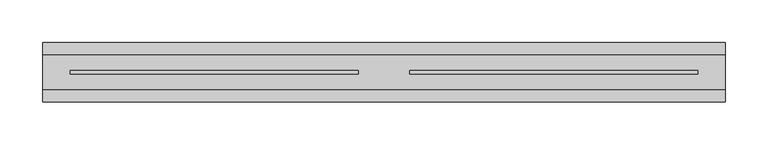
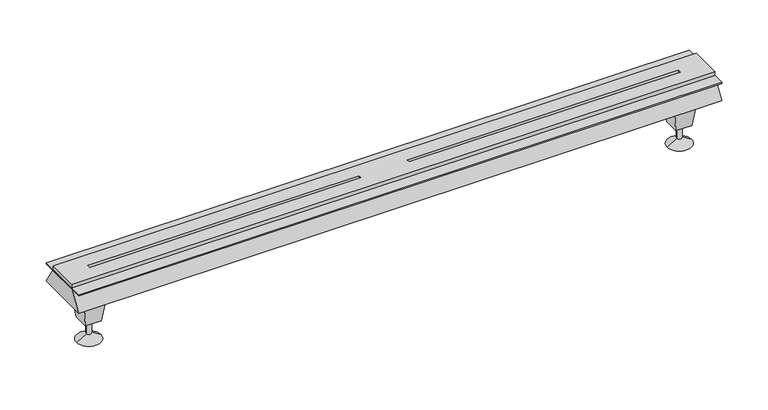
"""IFC4 building model written with IfcOpenShell, lengths in millimetres: sanitary terminal geometry, NLRS_PF_52_UN_XS Nano_Easydrain : XS Nano with M2 flat siphon."""

from ifc_helpers import new_model, si_unit, frame, origin, place, context, project, spatial, polyline, circle_curve, outline, extrude, faceted_brep, source, transform, mapped, element, save
from ifc_brep_helpers import plane_surface, cylinder_surface, revolved_surface, advanced_brep


def sanitary_terminal_20bd8035(model_context):
    return source(origin(), model_context, "Body", "SolidModel", [
        advanced_brep(
        [(370.5, 0.0, -69.0), (364.5, 0.0, -69.0), (367.5, 0.0, -69.0), (370.5, 0.0, -87.5), (364.5, 0.0, -87.5), (382.5, 0.0, -95.0), (352.5, 0.0, -95.0), (367.5, 0.0, -95.0)],
        [
            (0, 1, circle_curve(frame((367.5, 0.0, -69.0), z_axis=(0.0, 0.0, 1.0), x_axis=(-1.0, 0.0, 0.0)), 3.0)),
            (1, 2),
            (2, 0),
            (1, 0, circle_curve(frame((367.5, 0.0, -69.0), z_axis=(0.0, 0.0, 1.0), x_axis=(-1.0, 0.0, 0.0)), 3.0)),
            (3, 4, circle_curve(frame((367.5, 0.0, -87.5), z_axis=(0.0, 0.0, 1.0), x_axis=(-1.0, 0.0, 0.0)), 3.0)),
            (4, 1),
            (0, 3),
            (4, 3, circle_curve(frame((367.5, 0.0, -87.5), z_axis=(0.0, 0.0, 1.0), x_axis=(-1.0, 0.0, 0.0)), 3.0)),
            (5, 6, circle_curve(frame((367.5, 0.0, -95.0), z_axis=(0.0, 0.0, 1.0), x_axis=(-1.0, 0.0, 0.0)), 15.0)),
            (6, 4),
            (3, 5),
            (6, 5, circle_curve(frame((367.5, 0.0, -95.0), z_axis=(0.0, 0.0, 1.0), x_axis=(-1.0, 0.0, 0.0)), 15.0)),
            (7, 6),
            (5, 7),
        ],
        [
            plane_surface(frame((367.5, 0.0, -69.0), z_axis=(0.0, 0.0, 1.0), x_axis=(-1.0, 0.0, 0.0))),
            cylinder_surface(frame((367.5, 0.0, -103.1782032), z_axis=(0.0, 0.0, -1.0), x_axis=(-1.0, 0.0, 0.0)), 3.0),
            revolved_surface(polyline([(364.5, 0.0, -87.5), (352.5, 0.0, -95.0)]), (367.5, 0.0, -103.1782032), (0.0, 0.0, -1.0)),
            plane_surface(frame((367.5, 0.0, -95.0), z_axis=(0.0, 0.0, -1.0), x_axis=(-1.0, 0.0, 0.0))),
        ],
        [
            (0, [[1, 2, 3]]),
            (0, [[4, -3, -2]]),
            (1, [[5, 6, -1, 7]]),
            (1, [[8, -7, -4, -6]]),
            (2, [[9, 10, -5, 11]]),
            (2, [[12, -11, -8, -10]]),
            (3, [[13, -9, 14]]),
            (3, [[-14, -12, -13]]),
        ],
    ),
        faceted_brep([(357.5, 10.0, -69.0), (377.5, 10.0, -69.0), (377.5, -10.0, -69.0), (357.5, -10.0, -69.0), (352.5, 15.0, -29.0), (352.5, -15.0, -29.0), (382.5, -15.0, -29.0), (382.5, 15.0, -29.0)], [[[0, 1, 2, 3]], [[4, 5, 6, 7]], [[5, 4, 0, 3]], [[6, 5, 3, 2]], [[7, 6, 2, 1]], [[4, 7, 1, 0]]]),
        advanced_brep(
        [(-364.5, 0.0, -69.0), (-370.5, 0.0, -69.0), (-367.5, 0.0, -69.0), (-364.5, 0.0, -87.5), (-370.5, 0.0, -87.5), (-352.5, 0.0, -95.0), (-382.5, 0.0, -95.0), (-367.5, 0.0, -95.0)],
        [
            (0, 1, circle_curve(frame((-367.5, 0.0, -69.0), z_axis=(0.0, 0.0, 1.0), x_axis=(-1.0, 0.0, 0.0)), 3.0)),
            (1, 2),
            (2, 0),
            (1, 0, circle_curve(frame((-367.5, 0.0, -69.0), z_axis=(0.0, 0.0, 1.0), x_axis=(-1.0, 0.0, 0.0)), 3.0)),
            (3, 4, circle_curve(frame((-367.5, 0.0, -87.5), z_axis=(0.0, 0.0, 1.0), x_axis=(-1.0, 0.0, 0.0)), 3.0)),
            (4, 1),
            (0, 3),
            (4, 3, circle_curve(frame((-367.5, 0.0, -87.5), z_axis=(0.0, 0.0, 1.0), x_axis=(-1.0, 0.0, 0.0)), 3.0)),
            (5, 6, circle_curve(frame((-367.5, 0.0, -95.0), z_axis=(0.0, 0.0, 1.0), x_axis=(-1.0, 0.0, 0.0)), 15.0)),
            (6, 4),
            (3, 5),
            (6, 5, circle_curve(frame((-367.5, 0.0, -95.0), z_axis=(0.0, 0.0, 1.0), x_axis=(-1.0, 0.0, 0.0)), 15.0)),
            (7, 6),
            (5, 7),
        ],
        [
            plane_surface(frame((-367.5, 0.0, -69.0), z_axis=(0.0, 0.0, 1.0), x_axis=(-1.0, 0.0, 0.0))),
            cylinder_surface(frame((-367.5, 0.0, -103.1782032), z_axis=(0.0, 0.0, -1.0), x_axis=(-1.0, 0.0, 0.0)), 3.0),
            revolved_surface(polyline([(-370.5, 0.0, -87.5), (-382.5, 0.0, -95.0)]), (-367.5, 0.0, -103.1782032), (0.0, 0.0, -1.0)),
            plane_surface(frame((-367.5, 0.0, -95.0), z_axis=(0.0, 0.0, -1.0), x_axis=(-1.0, 0.0, 0.0))),
        ],
        [
            (0, [[1, 2, 3]]),
            (0, [[4, -3, -2]]),
            (1, [[5, 6, -1, 7]]),
            (1, [[8, -7, -4, -6]]),
            (2, [[9, 10, -5, 11]]),
            (2, [[12, -11, -8, -10]]),
            (3, [[13, -9, 14]]),
            (3, [[-14, -12, -13]]),
        ],
    ),
        faceted_brep([(-377.5, 10.0, -69.0), (-357.5, 10.0, -69.0), (-357.5, -10.0, -69.0), (-377.5, -10.0, -69.0), (-382.5, 15.0, -29.0), (-382.5, -15.0, -29.0), (-352.5, -15.0, -29.0), (-352.5, 15.0, -29.0)], [[[0, 1, 2, 3]], [[4, 5, 6, 7]], [[5, 4, 0, 3]], [[6, 5, 3, 2]], [[7, 6, 2, 1]], [[4, 7, 1, 0]]]),
        extrude(outline(polyline([(400.0, 20.0), (400.0, -20.0), (-400.0, -20.0), (-400.0, 20.0), (400.0, 20.0)]), holes=[polyline([(-30.0, 2.0), (-367.5, 2.0), (-367.5, -2.0), (-30.0, -2.0), (-30.0, 2.0)]), polyline([(30.0, 2.0), (30.0, -2.0), (367.5, -2.0), (367.5, 2.0), (30.0, 2.0)])]), frame((0.0, 0.0, -5.0), z_axis=(0.0, 0.0, 1.0), x_axis=(1.0, 0.0, 0.0)), (0.0, 0.0, 1.0), 5.0),
        extrude(outline(polyline([(400.0, 35.0), (400.0, -35.0), (-400.0, -35.0), (-400.0, 35.0), (400.0, 35.0)])), frame((0.0, 0.0, -6.4659054), z_axis=(0.0, 0.0, 1.0), x_axis=(1.0, 0.0, 0.0)), (0.0, 0.0, 1.0), 1.4659054),
        extrude(outline(polyline([(-20.0, -5.0), (20.0, -5.0), (35.0, -29.0), (-35.0, -29.0), (-20.0, -5.0)])), frame((-400.0, 0.0, 0.0), z_axis=(1.0, 0.0, 0.0), x_axis=(0.0, 1.0, 0.0)), (0.0, 0.0, 1.0), 800.0),
    ])


if __name__ == "__main__":
    model = new_model("IFC4")
    model_context = context("Model", 3, world=origin())
    ifc_project = project(units=[si_unit("LENGTHUNIT", "METRE", prefix="MILLI")], contexts=[model_context])
    site = spatial("IfcSite", under=ifc_project)
    building = spatial("IfcBuilding", under=site)
    placement = place(None, origin())
    sanitary_terminal_shape = sanitary_terminal_20bd8035(model_context)
    element("IfcSanitaryTerminal", 1, ObjectType="NLRS_PF_52_UN_XS Nano_Easydrain : XS Nano with M2 flat siphon", at=placement, inside=building, context=model_context, shape_type="MappedRepresentation", body=[
        mapped(sanitary_terminal_shape, transform((0.0, 0.0, 0.0), x_axis=(1.0, 0.0, 0.0), y_axis=(0.0, 1.0, 0.0), z_axis=(0.0, 0.0, 1.0))),
    ])
    save(model, "model.ifc")
